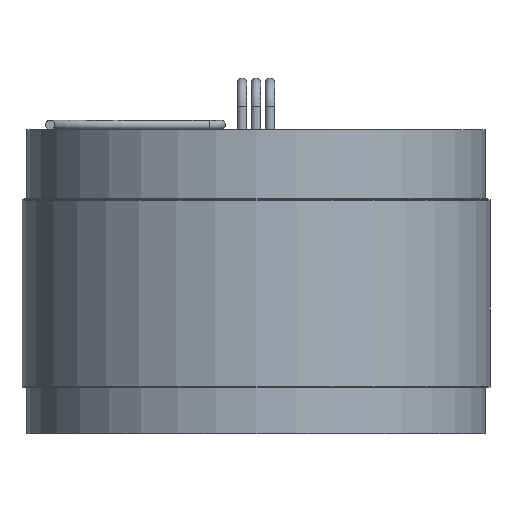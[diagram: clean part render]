
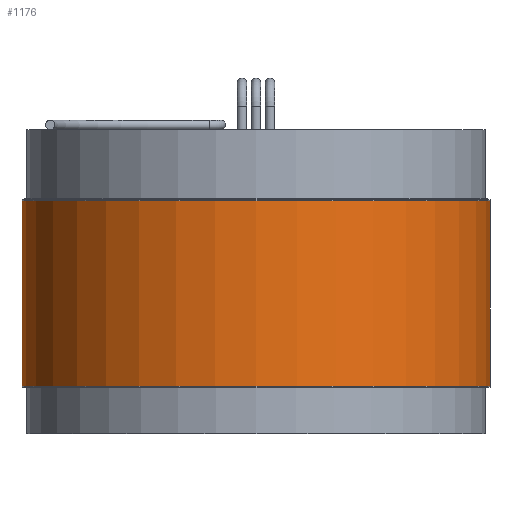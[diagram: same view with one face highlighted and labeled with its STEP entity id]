
A CAD part, front view. The second image highlights one B-rep face of the part: STEP entity #1176.
In plain terms, the highlighted cylindrical face has radius 63.5 mm (diameter 127 mm), a full revolution.
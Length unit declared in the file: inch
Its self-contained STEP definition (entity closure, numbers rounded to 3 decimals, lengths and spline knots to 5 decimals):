
#7 = AXIS2_PLACEMENT_3D ( 'NONE', #201, #764, #1097 ) ;
#15 = EDGE_LOOP ( 'NONE', ( #352 ) ) ;
#103 = DIRECTION ( 'NONE',  ( 1., 0., 0. ) ) ;
#116 = DIRECTION ( 'NONE',  ( 0., 0., 1. ) ) ;
#201 = CARTESIAN_POINT ( 'NONE',  ( 0., 0., -0.99213 ) ) ;
#352 = ORIENTED_EDGE ( 'NONE', *, *, #1025, .T. ) ;
#446 = EDGE_CURVE ( 'NONE', #936, #936, #808, .T. ) ;
#472 = CARTESIAN_POINT ( 'NONE',  ( 2.5, 0., -0.99213 ) ) ;
#500 = CYLINDRICAL_SURFACE ( 'NONE', #1378, 2.5 ) ;
#552 = DIRECTION ( 'NONE',  ( 1., 0., 0. ) ) ;
#751 = CARTESIAN_POINT ( 'NONE',  ( 0., 0., -1.01 ) ) ;
#764 = DIRECTION ( 'NONE',  ( 0., 0., 1. ) ) ;
#808 = CIRCLE ( 'NONE', #1046, 2.5 ) ;
#882 = DIRECTION ( 'NONE',  ( 0., 0., 1. ) ) ;
#895 = CIRCLE ( 'NONE', #7, 2.5 ) ;
#925 = CARTESIAN_POINT ( 'NONE',  ( 2.5, 0., 0.99213 ) ) ;
#936 = VERTEX_POINT ( 'NONE', #925 ) ;
#941 = ORIENTED_EDGE ( 'NONE', *, *, #446, .F. ) ;
#985 = EDGE_LOOP ( 'NONE', ( #941 ) ) ;
#1025 = EDGE_CURVE ( 'NONE', #1362, #1362, #895, .T. ) ;
#1046 = AXIS2_PLACEMENT_3D ( 'NONE', #1125, #882, #552 ) ;
#1097 = DIRECTION ( 'NONE',  ( 1., 0., 0. ) ) ;
#1125 = CARTESIAN_POINT ( 'NONE',  ( 0., 0., 0.99213 ) ) ;
#1176 = ADVANCED_FACE ( 'NONE', ( #1267, #1374 ), #500, .T. ) ;
#1267 = FACE_OUTER_BOUND ( 'NONE', #985, .T. ) ;
#1362 = VERTEX_POINT ( 'NONE', #472 ) ;
#1374 = FACE_OUTER_BOUND ( 'NONE', #15, .T. ) ;
#1378 = AXIS2_PLACEMENT_3D ( 'NONE', #751, #116, #103 ) ;
